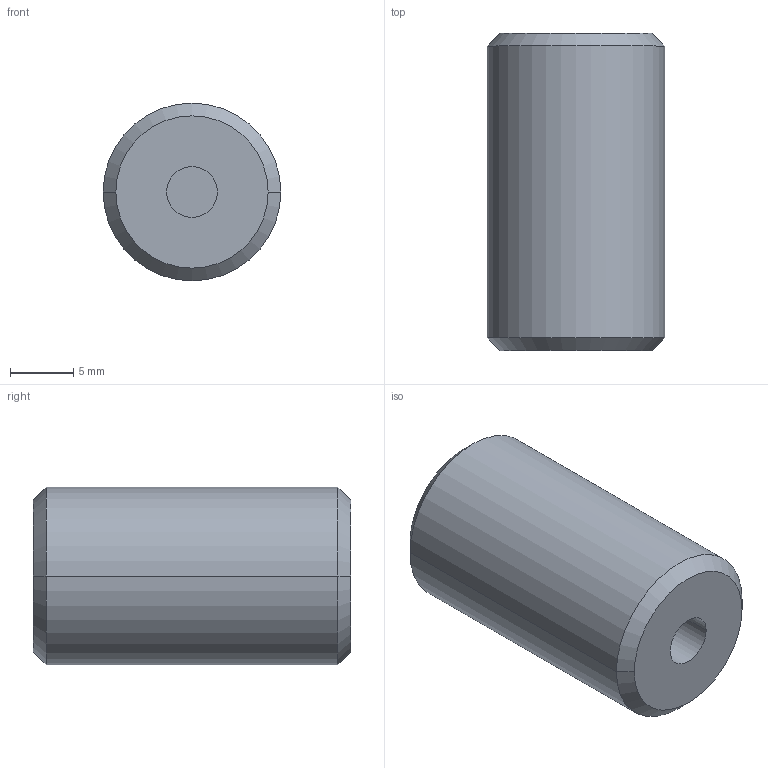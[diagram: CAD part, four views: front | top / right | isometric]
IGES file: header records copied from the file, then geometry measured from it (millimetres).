
Start section: 3D InterOp IGES (v. 2022 1.0.1), Spatial Corp. Copyright (c) 1999-2020.
Global section: file name: S148-1425.igs; native system: Spatial Corp.; preprocessor: 3D InterOp GENERIC/IGES 3.0; author: Noname; organization: Noname; date: 20260422.150615; units: millimetre
Bounding box: 14 x 25 x 14 mm (x, y, z)
Volume: 3680.9 mm3; surface area: 1479 mm2
Topology: 1 solids, 1 shells, 11 faces, 20 edges, 12 vertices
Faces by surface type: cylinder 4, cone 4, extrusion 3
